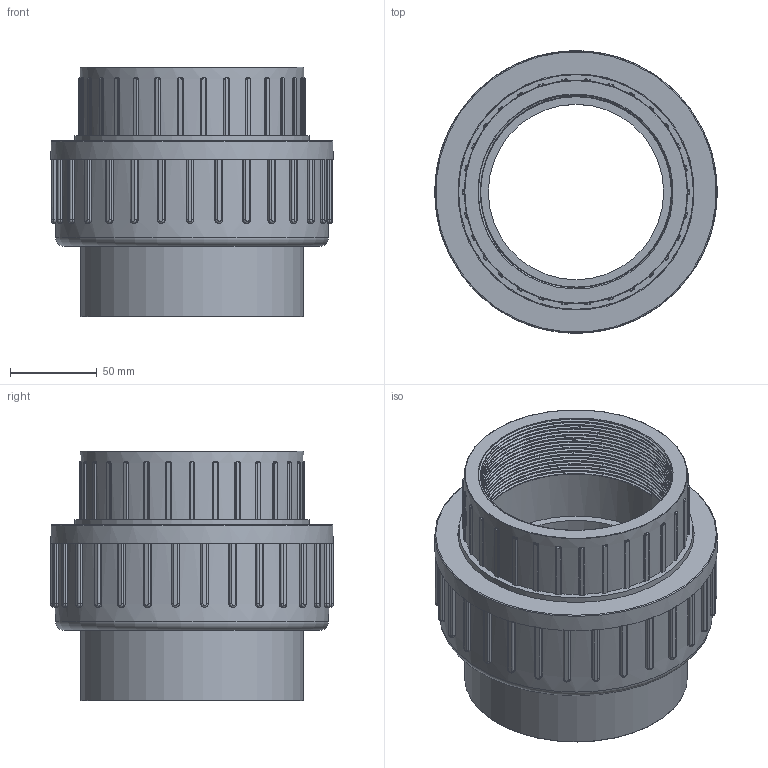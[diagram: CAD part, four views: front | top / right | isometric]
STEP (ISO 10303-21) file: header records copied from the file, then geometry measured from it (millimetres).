
FILE_DESCRIPTION(/* description */ (''),/* implementation_level */ '2;1');
FILE_NAME(/* name */ 'C:\Users\POLYPIPE\Desktop\DATASET INVENTOR\LIBRERIA EFFAST\3D_RACCORDI\RER\3D_RERBOE\3D_RERBOE110L.stp',/* time_stamp */ '2018-01-22T15:58:21+01:00',/* author */ ('POLYPIPE'),/* organization */ (''),/* preprocessor_version */ 'ST-DEVELOPER v16.1',/* originating_system */ 'Autodesk Inventor 2016',/* authorisation */ '');
FILE_SCHEMA (('CONFIG_CONTROL_DESIGN'));
Length unit declared in the file: centimetre
Products named in the file (1): 3D_RERBOE
Bounding box: 162.99 x 162.94 x 144 mm (x, y, z)
Volume: 915761.7 mm3; surface area: 203763.6 mm2
Topology: 1 solids, 1 shells, 581 faces, 1554 edges, 984 vertices
Faces by surface type: cylinder 251, plane 223, bspline 100, torus 4, cone 3
Full cylindrical faces by diameter (mm): 101.2 x1, 106.4 x1, 110.072 x2, 128.6 x1, 128.8 x1, 135 x1, 135.472 x1, 136.5 x1, 157.8 x1, 163 x1
Entity records: 32291 total; most frequent: CARTESIAN_POINT 17480, ORIENTED_EDGE 3060, DIRECTION 2948, EDGE_CURVE 1530, AXIS2_PLACEMENT_3D 1081, VERTEX_POINT 977, LINE 786, VECTOR 786
